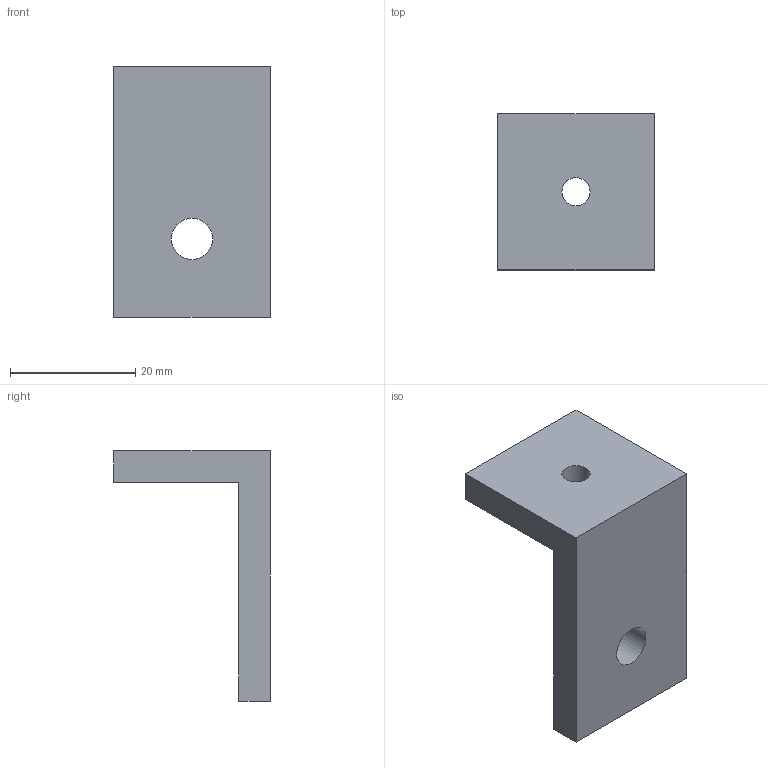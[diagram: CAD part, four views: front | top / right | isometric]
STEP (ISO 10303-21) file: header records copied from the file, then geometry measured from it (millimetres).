
FILE_DESCRIPTION(/* description */ (''),/* implementation_level */ '2;1');
FILE_NAME(/* name */ 'd.stp',/* time_stamp */ '2026-04-10T09:57:08+08:00',/* author */ ('32769'),/* organization */ (''),/* preprocessor_version */ 'ST-DEVELOPER v20',/* originating_system */ 'Autodesk Inventor 2025',/* authorisation */ '');
FILE_SCHEMA (('AUTOMOTIVE_DESIGN { 1 0 10303 214 3 1 1 }'));
Length unit declared in the file: millimetre
Products named in the file (1): d
Bounding box: 25 x 25 x 40 mm (x, y, z)
Volume: 7249.4 mm3; surface area: 3924.1 mm2
Topology: 1 solids, 1 shells, 10 faces, 24 edges, 16 vertices
Faces by surface type: plane 8, cylinder 2
Full cylindrical faces by diameter (mm): 4.5 x1, 6.6 x1
Entity records: 343 total; most frequent: CARTESIAN_POINT 51, DIRECTION 50, ORIENTED_EDGE 48, EDGE_CURVE 24, LINE 20, VECTOR 20, VERTEX_POINT 16, AXIS2_PLACEMENT_3D 15
